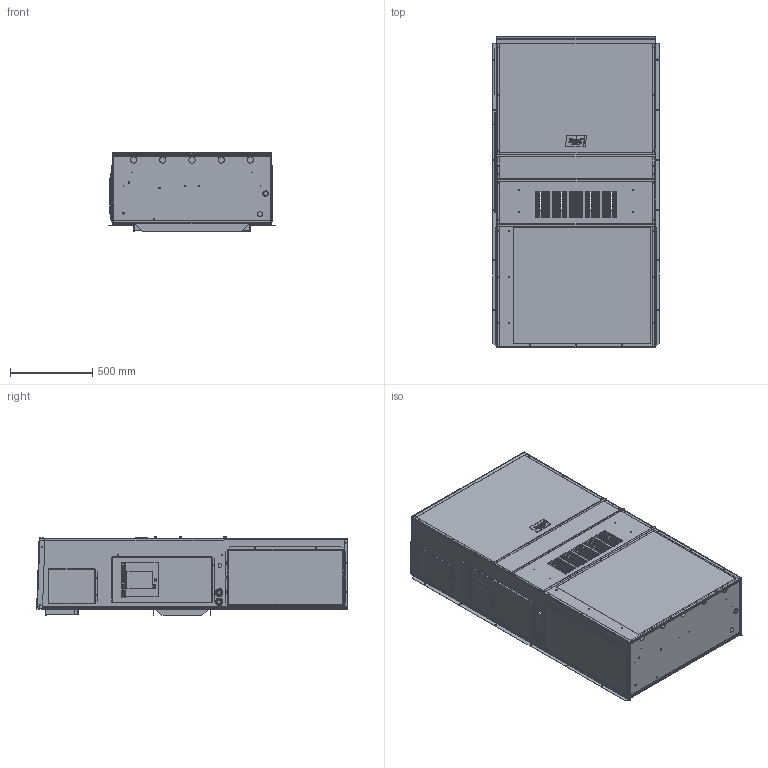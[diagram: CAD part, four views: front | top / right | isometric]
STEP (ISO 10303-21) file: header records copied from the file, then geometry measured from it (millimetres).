
FILE_DESCRIPTION (( 'STEP AP203' ), '1' );
FILE_NAME ('STEP_900.STEP', '2016-06-22T13:22:12', ( '' ), ( '' ), 'SwSTEP 2.0', 'SolidWorks 2016', '' );
FILE_SCHEMA (( 'CONFIG_CONTROL_DESIGN' ));
Products named in the file (1): STEP_900
Bounding box: 1015.56 x 1893.83 x 477.25 mm (x, y, z)
Volume: 6928057.8 mm3; surface area: 14773272.5 mm2
Topology: 40 solids, 40 shells, 3400 faces, 9344 edges, 6047 vertices
Faces by surface type: plane 1320, cylinder 1043, torus 885, bspline 126, sphere 18, cone 8
Entity records: 140795 total; most frequent: CARTESIAN_POINT 51239, DIRECTION 19005, ORIENTED_EDGE 18670, EDGE_CURVE 9335, AXIS2_PLACEMENT_3D 7289, VERTEX_POINT 6046, LINE 4427, VECTOR 4427
